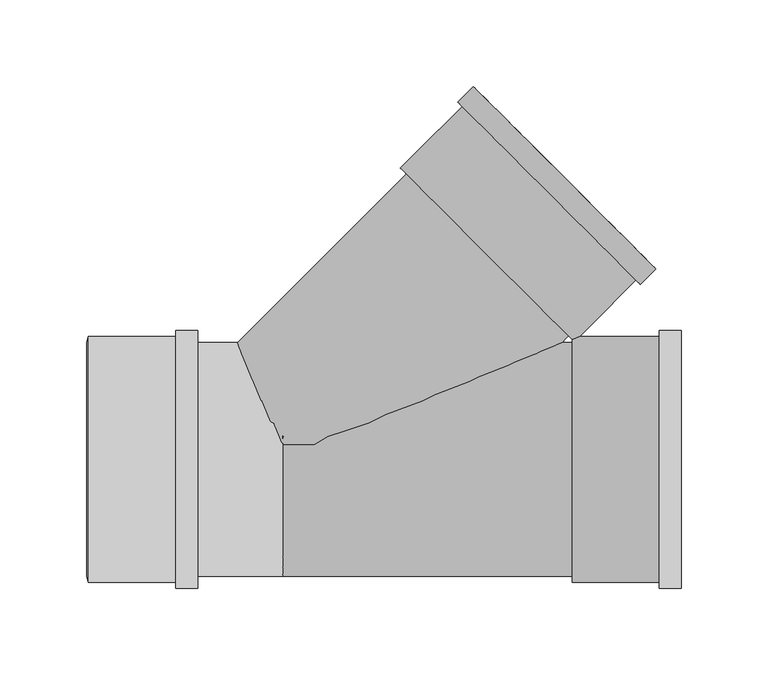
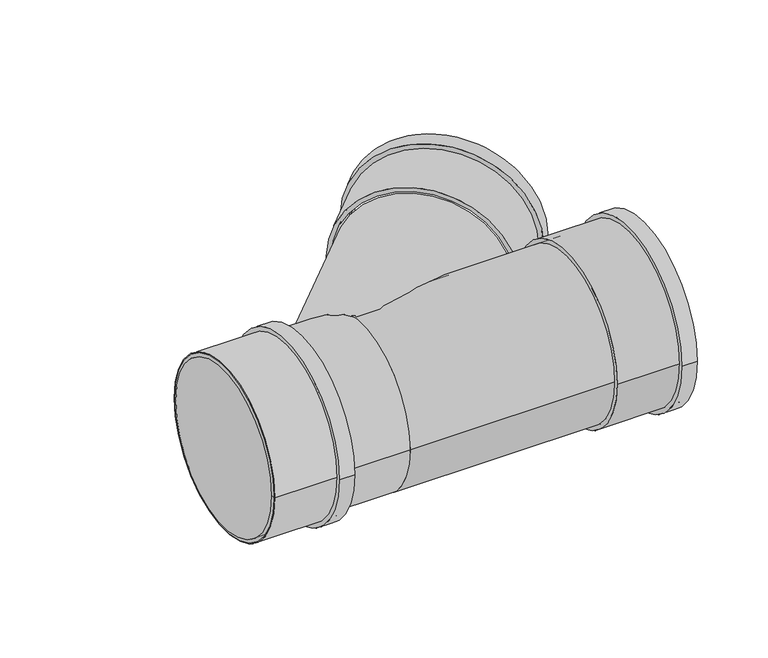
"""IFC4 building model written with IfcOpenShell, lengths in millimetres: pipe fitting geometry, Superdrain SKEA Branch : Superdrain SKEA Branch."""

from ifc_helpers import new_model, si_unit, point, frame, origin, origin_2d, place, context, project, spatial, polyline, circle_curve, ellipse_curve, trimmed, segment, composite_curve, outline, extrude, source, transform, mapped, element, save
from ifc_brep_helpers import plane_surface, cylinder_surface, revolved_surface, advanced_brep


def pipe_fitting_f0051c42(model_context):
    return source(origin(), model_context, "Body", "SolidModel", [
        extrude(outline(composite_curve([segment(trimmed(circle_curve(origin_2d(), 70.875), [point((70.875, 0.0))], [point((-70.875, 0.0))], False, "CARTESIAN"), True, "CONTINUOUS"), segment(trimmed(circle_curve(origin_2d(), 70.875), [point((-70.875, 0.0))], [point((70.875, 0.0))], False, "CARTESIAN"), True, "CONTINUOUS")], self_intersect=False), holes=[composite_curve([segment(trimmed(circle_curve(origin_2d(), 67.5), [point((67.5, 0.0))], [point((-67.5, 0.0))], True, "CARTESIAN"), True, "CONTINUOUS"), segment(trimmed(circle_curve(origin_2d(), 67.5), [point((-67.5, 0.0))], [point((67.5, 0.0))], True, "CARTESIAN"), True, "CONTINUOUS")], self_intersect=False)]), frame((-112.1, 0.0, 0.0), z_axis=(1.0, 0.0, 0.0), x_axis=(0.0, 1.0, 0.0)), (0.0, 0.0, 1.0), 63.0),
        extrude(outline(composite_curve([segment(trimmed(circle_curve(origin_2d(), 74.41875), [point((74.41875, 0.0))], [point((-74.41875, 0.0))], False, "CARTESIAN"), True, "CONTINUOUS"), segment(trimmed(circle_curve(origin_2d(), 74.41875), [point((-74.41875, 0.0))], [point((74.41875, 0.0))], False, "CARTESIAN"), True, "CONTINUOUS")], self_intersect=False), holes=[composite_curve([segment(trimmed(circle_curve(origin_2d(), 67.5), [point((67.5, 0.0))], [point((-67.5, 0.0))], True, "CARTESIAN"), True, "CONTINUOUS"), segment(trimmed(circle_curve(origin_2d(), 67.5), [point((-67.5, 0.0))], [point((67.5, 0.0))], True, "CARTESIAN"), True, "CONTINUOUS")], self_intersect=False)]), frame((-61.7, 0.0, 0.0), z_axis=(1.0, 0.0, 0.0), x_axis=(0.0, 1.0, 0.0)), (0.0, 0.0, 1.0), 12.6),
        advanced_brep(
        [(-113.1, 67.5, 0.0), (-113.1, -67.5, 0.0), (-112.1, 70.875, 0.0), (-112.1, -70.875, 0.0)],
        [
            (0, 1, circle_curve(frame((-113.1, 0.0, 0.0), z_axis=(-1.0, 0.0, 0.0), x_axis=(0.0, 1.0000000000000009, 0.0)), 67.5)),
            (1, 0, circle_curve(frame((-113.1, 0.0, 0.0), z_axis=(-1.0, 0.0, 0.0), x_axis=(0.0, -1.0000000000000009, 0.0)), 67.5)),
            (2, 3, circle_curve(frame((-112.1, 0.0, 0.0), z_axis=(1.0, 0.0, 0.0), x_axis=(0.0, -1.0000000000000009, 0.0)), 70.875)),
            (3, 2, circle_curve(frame((-112.1, 0.0, 0.0), z_axis=(1.0, 0.0, 0.0), x_axis=(0.0, 1.0000000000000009, 0.0)), 70.875)),
            (3, 1),
            (0, 2),
        ],
        [
            plane_surface(frame((-113.1, 0.0, 0.0), z_axis=(-1.0, 0.0, 0.0), x_axis=(0.0, 0.0, -1.0))),
            plane_surface(frame((-112.1, 0.0, 0.0), z_axis=(1.0, 0.0, 0.0), x_axis=(0.0, 0.0, -1.0))),
            revolved_surface(polyline([(-113.1, 67.49999999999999, 0.0), (-112.1, 70.875, 0.0)]), (-133.1, 0.0, 0.0), (1.0000000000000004, 0.0, 0.0)),
            revolved_surface(polyline([(-113.1, -67.49999999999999, 0.0), (-112.1, -70.875, 0.0)]), (-133.1, 0.0, 0.0), (1.0000000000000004, 0.0, 0.0)),
        ],
        [
            (0, [[1, 2]]),
            (1, [[3, 4]]),
            (2, [[-4, 5, -1, 6]]),
            (3, [[-3, -6, -2, -5]]),
        ],
    ),
        advanced_brep(
        [(164.7912354, 71.2410082, 0.0), (71.2410082, 164.7912354, 0.0), (-27.4002272, 66.15, 0.0), (0.0, 0.0, 66.15), (159.7002272, 66.15, 0.0), (0.0, 0.0, -66.15)],
        [
            (0, 1, circle_curve(frame((118.0161218, 118.0161218, 0.0), z_axis=(0.7071067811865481, 0.7071067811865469, 0.0), x_axis=(-0.7071067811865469, 0.7071067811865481, 0.0)), 66.15)),
            (1, 0, circle_curve(frame((118.0161218, 118.0161218, 0.0), z_axis=(0.7071067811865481, 0.7071067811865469, 0.0), x_axis=(-0.7071067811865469, 0.7071067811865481, 0.0)), 66.15)),
            (1, 2),
            (2, 3, ellipse_curve(frame((0.0, 0.0, 0.0), z_axis=(0.923879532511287, 0.3826834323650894, 0.0), x_axis=(0.38268343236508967, -0.9238795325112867, 0.0)), 71.600244, 66.15)),
            (3, 4, ellipse_curve(frame((0.0, 0.0, 0.0), z_axis=(-0.3826834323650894, 0.923879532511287, 0.0), x_axis=(-0.923879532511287, -0.38268343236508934, 0.0)), 172.8582803, 66.15)),
            (4, 0),
            (4, 5, ellipse_curve(frame((0.0, 0.0, 0.0), z_axis=(-0.3826834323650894, 0.923879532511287, 0.0), x_axis=(-0.923879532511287, -0.38268343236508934, 0.0)), 172.8582803, 66.15)),
            (5, 2, ellipse_curve(frame((0.0, 0.0, 0.0), z_axis=(0.923879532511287, 0.3826834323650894, 0.0), x_axis=(0.38268343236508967, -0.9238795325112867, 0.0)), 71.600244, 66.15)),
            (2, 4),
        ],
        [
            plane_surface(frame((118.0161218, 118.0161218, 0.0), z_axis=(0.7071067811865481, 0.7071067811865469, 0.0), x_axis=(0.0, 0.0, 1.0))),
            cylinder_surface(frame((0.0, 0.0, 0.0), z_axis=(-0.7071067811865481, -0.7071067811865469, 0.0), x_axis=(-0.7071067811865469, 0.7071067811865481, 0.0)), 66.15),
            revolved_surface(polyline([(-159.700227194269, 66.15, 0.0), (159.7002272, 66.15, 0.0)]), (-117.1, 0.0, 0.0), (-1.0, 0.0, 0.0)),
        ],
        [
            (0, [[1, 2]]),
            (1, [[-2, 3, 4, 5, 6]]),
            (1, [[-1, -6, 7, 8, -3]]),
            (2, [[9, -5, -4]]),
            (2, [[-9, -8, -7]]),
        ],
    ),
        advanced_brep(
        [(166.9, -70.875, 0.0), (166.9, 70.875, 0.0), (229.9, -70.875, 0.0), (229.9, 70.875, 0.0), (229.9, -67.5, 0.0), (229.9, 67.5, 0.0), (167.9, -67.5, 0.0), (167.9, 67.5, 0.0)],
        [
            (0, 1, circle_curve(frame((166.9, 0.0, 0.0), z_axis=(-1.0, 0.0, 0.0), x_axis=(0.0, 1.0, 0.0)), 70.875)),
            (1, 0, circle_curve(frame((166.9, 0.0, 0.0), z_axis=(-1.0, 0.0, 0.0), x_axis=(0.0, 1.0, 0.0)), 70.875)),
            (2, 3, circle_curve(frame((229.9, 0.0, 0.0), z_axis=(1.0, 0.0, 0.0), x_axis=(0.0, 1.0, 0.0)), 70.875)),
            (3, 2, circle_curve(frame((229.9, 0.0, 0.0), z_axis=(1.0, 0.0, 0.0), x_axis=(0.0, 1.0, 0.0)), 70.875)),
            (4, 5, circle_curve(frame((229.9, 0.0, 0.0), z_axis=(-1.0, 0.0, 0.0), x_axis=(0.0, 1.0, 0.0)), 67.5)),
            (5, 4, circle_curve(frame((229.9, 0.0, 0.0), z_axis=(-1.0, 0.0, 0.0), x_axis=(0.0, 1.0, 0.0)), 67.5)),
            (0, 2),
            (3, 1),
            (6, 7, circle_curve(frame((167.9, 0.0, 0.0), z_axis=(-1.0, 0.0, 0.0), x_axis=(0.0, 1.0, 0.0)), 67.5)),
            (7, 5),
            (4, 6),
            (7, 6, circle_curve(frame((167.9, 0.0, 0.0), z_axis=(-1.0, 0.0, 0.0), x_axis=(0.0, 1.0, 0.0)), 67.5)),
        ],
        [
            plane_surface(frame((166.9, 0.0, 0.0), z_axis=(-1.0, 0.0, 0.0), x_axis=(0.0, 0.0, 1.0))),
            plane_surface(frame((229.9, 0.0, 0.0), z_axis=(1.0, 0.0, 0.0), x_axis=(0.0, 0.0, 1.0))),
            cylinder_surface(frame((166.9, 0.0, 0.0), z_axis=(-1.0, 0.0, 0.0), x_axis=(0.0, 1.0, 0.0)), 70.875),
            revolved_surface(polyline([(167.9, 67.5, 0.0), (229.9, 67.5, 0.0)]), (167.9, 0.0, 0.0), (-1.0, 0.0, 0.0)),
            plane_surface(frame((167.9, 0.0, 0.0), z_axis=(1.0, 0.0, 0.0), x_axis=(0.0, 0.0, 1.0))),
        ],
        [
            (0, [[1, 2]]),
            (1, [[3, 4], [5, 6]]),
            (2, [[-1, 7, -4, 8]]),
            (2, [[-2, -8, -3, -7]]),
            (3, [[9, 10, -5, 11]]),
            (3, [[12, -11, -6, -10]]),
            (4, [[-12, -9]]),
        ],
    ),
        extrude(outline(composite_curve([segment(trimmed(circle_curve(origin_2d(), 74.41875), [point((74.41875, 0.0))], [point((-74.41875, 0.0))], False, "CARTESIAN"), True, "CONTINUOUS"), segment(trimmed(circle_curve(origin_2d(), 74.41875), [point((-74.41875, 0.0))], [point((74.41875, 0.0))], False, "CARTESIAN"), True, "CONTINUOUS")], self_intersect=False), holes=[composite_curve([segment(trimmed(circle_curve(origin_2d(), 67.5), [point((67.5, 0.0))], [point((-67.5, 0.0))], True, "CARTESIAN"), True, "CONTINUOUS"), segment(trimmed(circle_curve(origin_2d(), 67.5), [point((-67.5, 0.0))], [point((67.5, 0.0))], True, "CARTESIAN"), True, "CONTINUOUS")], self_intersect=False)]), frame((217.3, 0.0, 0.0), z_axis=(1.0, 0.0, 0.0), x_axis=(0.0, 1.0, 0.0)), (0.0, 0.0, 1.0), 12.6),
        extrude(outline(composite_curve([segment(trimmed(circle_curve(origin_2d(), 67.5), [point((67.5, 0.0))], [point((-67.5, 0.0))], False, "CARTESIAN"), True, "CONTINUOUS"), segment(trimmed(circle_curve(origin_2d(), 67.5), [point((-67.5, 0.0))], [point((67.5, 0.0))], False, "CARTESIAN"), True, "CONTINUOUS")], self_intersect=False)), frame((-112.1, 0.0, 0.0), z_axis=(1.0, 0.0, 0.0), x_axis=(0.0, 1.0, 0.0)), (0.0, 0.0, 1.0), 112.1),
        extrude(outline(composite_curve([segment(trimmed(circle_curve(origin_2d(), 67.5), [point((-67.5, 0.0))], [point((67.5, 0.0))], False, "CARTESIAN"), True, "CONTINUOUS"), segment(trimmed(circle_curve(origin_2d(), 67.5), [point((67.5, 0.0))], [point((-67.5, 0.0))], False, "CARTESIAN"), True, "CONTINUOUS")], self_intersect=False)), frame((0.0, 0.0, 0.0), z_axis=(1.0, 0.0, 0.0), x_axis=(0.0, 1.0, 0.0)), (0.0, 0.0, 1.0), 166.9),
        extrude(outline(composite_curve([segment(trimmed(circle_curve(origin_2d(), 74.41875), [point((0.0, 74.41875))], [point((0.0, -74.41875))], False, "CARTESIAN"), True, "CONTINUOUS"), segment(trimmed(circle_curve(origin_2d(), 74.41875), [point((0.0, -74.41875))], [point((0.0, 74.41875))], False, "CARTESIAN"), True, "CONTINUOUS")], self_intersect=False), holes=[composite_curve([segment(trimmed(circle_curve(origin_2d(), 67.5), [point((0.0, 67.5))], [point((0.0, -67.5))], True, "CARTESIAN"), True, "CONTINUOUS"), segment(trimmed(circle_curve(origin_2d(), 67.5), [point((0.0, -67.5))], [point((0.0, 67.5))], True, "CARTESIAN"), True, "CONTINUOUS")], self_intersect=False)]), frame((153.6543036, 153.6543036, 0.0), z_axis=(0.7071067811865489, 0.7071067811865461, 0.0), x_axis=(0.0, 0.0, 1.0)), (0.0, 0.0, 1.0), 12.6),
        extrude(outline(composite_curve([segment(trimmed(circle_curve(origin_2d(), 70.875), [point((0.0, 70.875))], [point((0.0, -70.875))], False, "CARTESIAN"), True, "CONTINUOUS"), segment(trimmed(circle_curve(origin_2d(), 70.875), [point((0.0, -70.875))], [point((0.0, 70.875))], False, "CARTESIAN"), True, "CONTINUOUS")], self_intersect=False), holes=[composite_curve([segment(trimmed(circle_curve(origin_2d(), 67.5), [point((0.0, 67.5))], [point((0.0, -67.5))], True, "CARTESIAN"), True, "CONTINUOUS"), segment(trimmed(circle_curve(origin_2d(), 67.5), [point((0.0, -67.5))], [point((0.0, 67.5))], True, "CARTESIAN"), True, "CONTINUOUS")], self_intersect=False)]), frame((118.0161218, 118.0161218, 0.0), z_axis=(0.7071067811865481, 0.707106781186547, 0.0), x_axis=(0.0, 0.0, 1.0)), (0.0, 0.0, 1.0), 63.0),
    ])


if __name__ == "__main__":
    model = new_model("IFC4")
    model_context = context("Model", 3, world=origin())
    ifc_project = project(units=[si_unit("LENGTHUNIT", "METRE", prefix="MILLI")], contexts=[model_context])
    site = spatial("IfcSite", under=ifc_project)
    building = spatial("IfcBuilding", under=site)
    placement = place(None, origin())
    pipe_fitting_shape = pipe_fitting_f0051c42(model_context)
    element("IfcPipeFitting", 1, ObjectType="Superdrain SKEA Branch : Superdrain SKEA Branch", at=placement, inside=building, context=model_context, shape_type="MappedRepresentation", body=[
        mapped(pipe_fitting_shape, transform((0.0, 0.0, 0.0), x_axis=(1.0, 0.0, 0.0), y_axis=(0.0, 1.0, 0.0), z_axis=(0.0, 0.0, 1.0))),
    ])
    save(model, "model.ifc")
